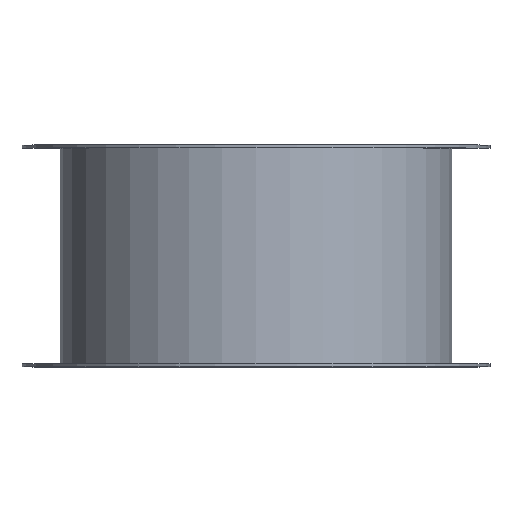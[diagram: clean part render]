
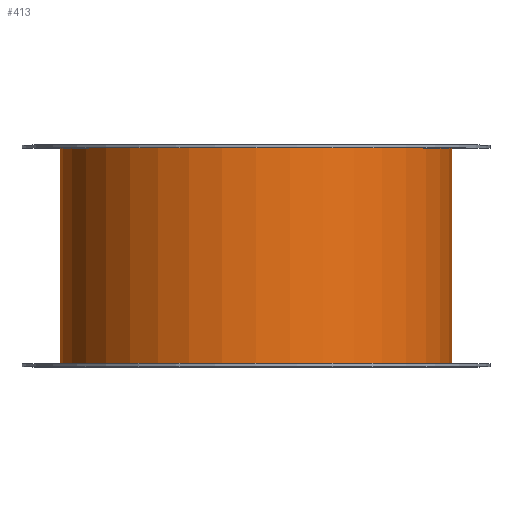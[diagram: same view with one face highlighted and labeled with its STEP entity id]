
A CAD part, top view. The second image highlights one B-rep face of the part: STEP entity #413.
In plain terms, the highlighted cylindrical face has radius 128 mm (diameter 256 mm), a full revolution.
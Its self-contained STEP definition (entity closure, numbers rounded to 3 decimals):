
#59=FACE_OUTER_BOUND('',#79,.T.);
#79=EDGE_LOOP('',(#331,#332,#333,#334));
#127=LINE('',#722,#143);
#143=VECTOR('',#601,126.);
#177=CIRCLE('',#484,128.);
#178=CIRCLE('',#485,128.);
#215=VERTEX_POINT('',#719);
#216=VERTEX_POINT('',#721);
#265=EDGE_CURVE('',#215,#215,#177,.T.);
#266=EDGE_CURVE('',#215,#216,#127,.T.);
#267=EDGE_CURVE('',#216,#216,#178,.F.);
#331=ORIENTED_EDGE('',*,*,#265,.T.);
#332=ORIENTED_EDGE('',*,*,#266,.T.);
#333=ORIENTED_EDGE('',*,*,#267,.T.);
#334=ORIENTED_EDGE('',*,*,#266,.F.);
#397=CYLINDRICAL_SURFACE('',#483,128.);
#413=ADVANCED_FACE('',(#59),#397,.T.);
#483=AXIS2_PLACEMENT_3D('',#718,#597,#598);
#484=AXIS2_PLACEMENT_3D('',#720,#599,#600);
#485=AXIS2_PLACEMENT_3D('',#723,#602,#603);
#597=DIRECTION('center_axis',(0.,1.,0.));
#598=DIRECTION('ref_axis',(1.,0.,0.));
#599=DIRECTION('center_axis',(0.,-1.,0.));
#600=DIRECTION('ref_axis',(1.,0.,0.));
#601=DIRECTION('',(0.,-1.,0.));
#602=DIRECTION('center_axis',(0.,-1.,0.));
#603=DIRECTION('ref_axis',(1.,0.,0.));
#718=CARTESIAN_POINT('Origin',(0.,0.,0.));
#719=CARTESIAN_POINT('',(-128.,70.5,0.));
#720=CARTESIAN_POINT('Origin',(0.,70.5,0.));
#721=CARTESIAN_POINT('',(-128.,-70.5,0.));
#722=CARTESIAN_POINT('',(-128.,0.,0.));
#723=CARTESIAN_POINT('Origin',(0.,-70.5,0.));
